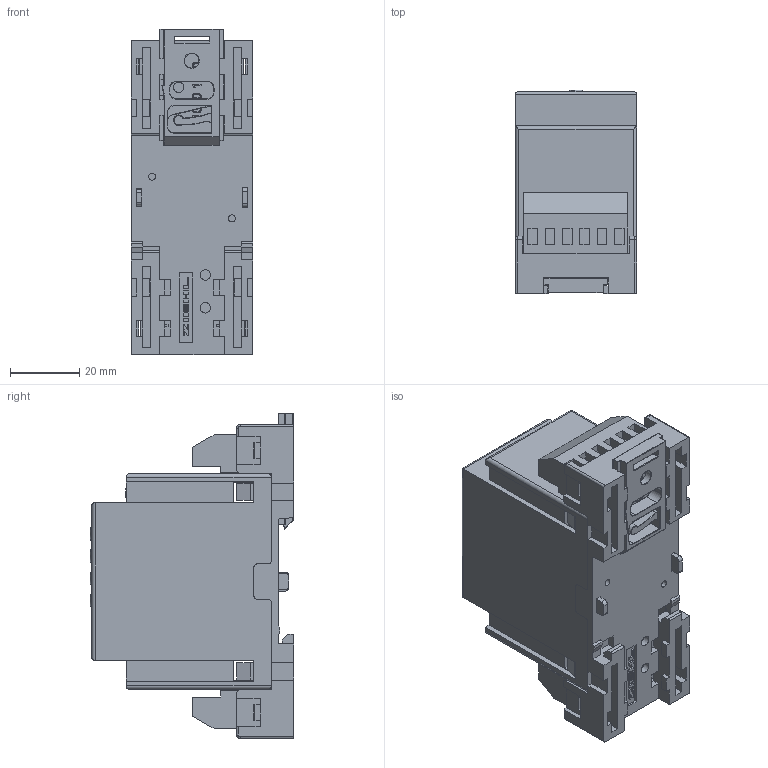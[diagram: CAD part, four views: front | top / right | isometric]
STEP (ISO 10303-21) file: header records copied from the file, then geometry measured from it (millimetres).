
FILE_DESCRIPTION (( 'STEP AP214' ), '1' );
FILE_NAME ('12090-1900-01_TR111V_3D.STEP', '2017-08-02T07:12:57', ( '' ), ( '' ), 'SwSTEP 2.0', 'SolidWorks 2017', '' );
FILE_SCHEMA (( 'AUTOMOTIVE_DESIGN' ));
Length unit declared in the file: millimetre
Products named in the file (9): Kopie von 1080 1990.5_V-Riegel_3D^12090-1900-01_TR111V_3D; Kopie von Potiknopf_3D f黵 Modelle^12090-1900-01_TR111V_3D; Kopie von V2_Frontplatte^12090-1900-01_TR111V_3D; Kopie von V2_Leiterplatte^12090-1900-01_TR111V_3D; Kopie von 1080 1980.3_3D_V2_Oberteil^12090-1900-01_TR111V_3D; Kopie von 1080 1970.4_3D_V2_Unterteil^12090-1900-01_TR111V_3D; Kopie von 12090-1200-02 TR 111V 3Ber 3D^12090-1900-01_TR111V_3D; 12090-1900-01_TR111V_3D; Kopie von 31071106^12090-1900-01_TR111V_3D
Assembly tree (12 placements, depth 2):
  12090-1900-01_TR111V_3D
    Kopie von 1080 1970.4_3D_V2_Unterteil^12090-1900-01_TR111V_3D
    Kopie von 1080 1990.5_V-Riegel_3D^12090-1900-01_TR111V_3D
    Kopie von V2_Leiterplatte^12090-1900-01_TR111V_3D
    Kopie von 1080 1980.3_3D_V2_Oberteil^12090-1900-01_TR111V_3D
    Kopie von V2_Frontplatte^12090-1900-01_TR111V_3D
    Kopie von 12090-1200-02 TR 111V 3Ber 3D^12090-1900-01_TR111V_3D
    Kopie von Potiknopf_3D f黵 Modelle^12090-1900-01_TR111V_3D  x4
    Kopie von 31071106^12090-1900-01_TR111V_3D  x2
Bounding box: 35 x 58.7 x 93.69 mm (x, y, z)
Volume: 44367 mm3; surface area: 52073.3 mm2
Topology: 11 solids, 290 shells, 4258 faces, 10587 edges, 6970 vertices
Faces by surface type: plane 3149, bspline 794, cylinder 239, torus 58, sphere 18
Full cylindrical faces by diameter (mm): 0.56 x2, 0.7 x2, 1.5 x4, 1.8 x4, 2 x2, 2.8 x1, 3 x4, 3.5 x8, 3.658 x2, 4 x16, 4.2 x1, 4.5 x2, 6 x2
Entity records: 144389 total; most frequent: CARTESIAN_POINT 49652, ORIENTED_EDGE 20008, DIRECTION 15346, EDGE_CURVE 10006, VECTOR 7984, LINE 7984, VERTEX_POINT 6645, EDGE_LOOP 4409
